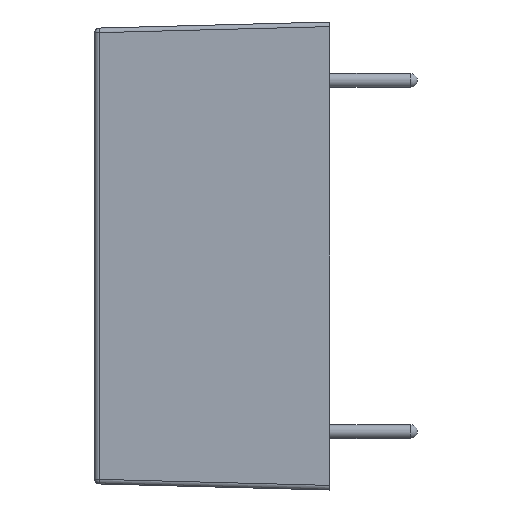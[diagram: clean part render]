
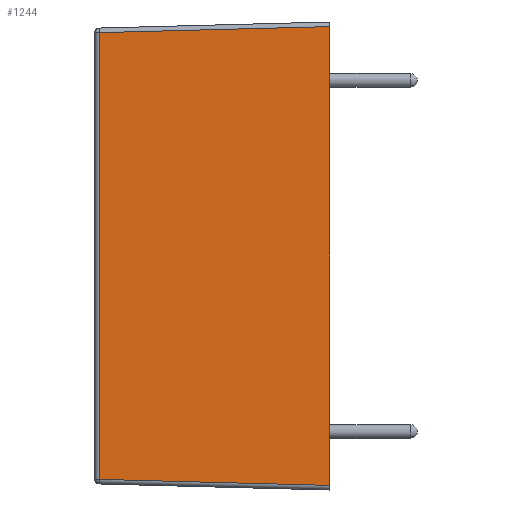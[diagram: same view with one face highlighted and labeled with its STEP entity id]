
A CAD part, left-side view. The second image highlights one B-rep face of the part: STEP entity #1244.
In plain terms, the highlighted planar face has unit normal (-1, 0.026, 0).
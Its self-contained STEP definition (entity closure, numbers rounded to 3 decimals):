
#14 = LINE ( 'NONE', #114, #2835 ) ;
#53 = ORIENTED_EDGE ( 'NONE', *, *, #2783, .T. ) ;
#114 = CARTESIAN_POINT ( 'NONE',  ( -15.9, -0.005, -9.95 ) ) ;
#115 = CARTESIAN_POINT ( 'NONE',  ( -15.9, 0., -9.95 ) ) ;
#221 = CARTESIAN_POINT ( 'NONE',  ( -15.638, 10.005, -9.688 ) ) ;
#371 = CARTESIAN_POINT ( 'NONE',  ( -15.886, 0.526, 9.936 ) ) ;
#472 = VECTOR ( 'NONE', #2427, 1000. ) ;
#517 = LINE ( 'NONE', #3361, #2913 ) ;
#733 = ORIENTED_EDGE ( 'NONE', *, *, #2052, .T. ) ;
#1078 = DIRECTION ( 'NONE',  ( -1., 0.026, 0. ) ) ;
#1194 = ORIENTED_EDGE ( 'NONE', *, *, #1968, .T. ) ;
#1244 = ADVANCED_FACE ( 'NONE', ( #3092 ), #1719, .T. ) ;
#1581 = CARTESIAN_POINT ( 'NONE',  ( -15.638, 10.005, 9.688 ) ) ;
#1679 = DIRECTION ( 'NONE',  ( 0., 0., 1. ) ) ;
#1719 = PLANE ( 'NONE',  #2708 ) ;
#1752 = ORIENTED_EDGE ( 'NONE', *, *, #2145, .T. ) ;
#1787 = DIRECTION ( 'NONE',  ( 0., 0., -1. ) ) ;
#1968 = EDGE_CURVE ( 'NONE', #2609, #3638, #2045, .T. ) ;
#2045 = LINE ( 'NONE', #371, #472 ) ;
#2052 = EDGE_CURVE ( 'NONE', #3343, #3168, #14, .T. ) ;
#2145 = EDGE_CURVE ( 'NONE', #3638, #3343, #3394, .T. ) ;
#2291 = CARTESIAN_POINT ( 'NONE',  ( -15.9, 0., -10.15 ) ) ;
#2387 = CARTESIAN_POINT ( 'NONE',  ( -15.638, 10.005, -9.883 ) ) ;
#2427 = DIRECTION ( 'NONE',  ( 0.026, 0.999, -0.026 ) ) ;
#2502 = EDGE_LOOP ( 'NONE', ( #1752, #733, #53, #1194 ) ) ;
#2609 = VERTEX_POINT ( 'NONE', #2975 ) ;
#2707 = DIRECTION ( 'NONE',  ( -0.026, -0.999, -0.026 ) ) ;
#2708 = AXIS2_PLACEMENT_3D ( 'NONE', #2291, #1078, #2790 ) ;
#2783 = EDGE_CURVE ( 'NONE', #3168, #2609, #517, .T. ) ;
#2790 = DIRECTION ( 'NONE',  ( -0.026, -1., 0. ) ) ;
#2835 = VECTOR ( 'NONE', #2707, 1000. ) ;
#2913 = VECTOR ( 'NONE', #1679, 1000. ) ;
#2975 = CARTESIAN_POINT ( 'NONE',  ( -15.9, 0., 9.95 ) ) ;
#3092 = FACE_OUTER_BOUND ( 'NONE', #2502, .T. ) ;
#3168 = VERTEX_POINT ( 'NONE', #115 ) ;
#3309 = VECTOR ( 'NONE', #1787, 1000. ) ;
#3343 = VERTEX_POINT ( 'NONE', #221 ) ;
#3361 = CARTESIAN_POINT ( 'NONE',  ( -15.9, 0., -10.15 ) ) ;
#3394 = LINE ( 'NONE', #2387, #3309 ) ;
#3638 = VERTEX_POINT ( 'NONE', #1581 ) ;
